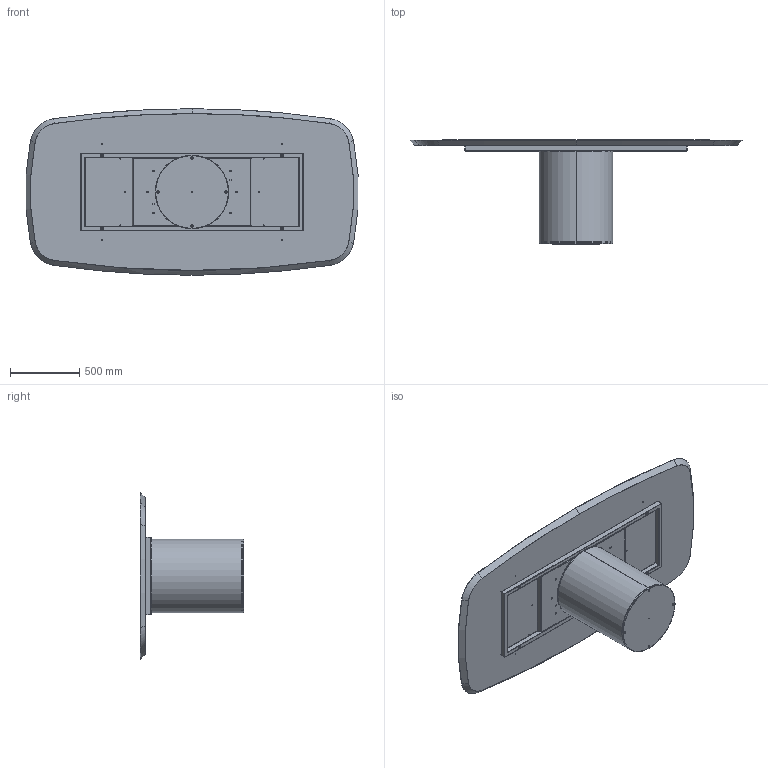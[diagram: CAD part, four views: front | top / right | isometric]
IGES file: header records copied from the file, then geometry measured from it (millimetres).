
Start section: SolidWorks IGES file using analytic representation for surfaces
Global section: file name: Y:\eforma\TECNICO\SOLIDWORKS\E-FORMA\1-TAVOLI\CILINDRO\02 parts\CI43W.IGS; native system: SolidWorks 2022; preprocessor: SolidWorks 2022; author: eforma.tech; date: 240808.092705; units: millimetre
Bounding box: 2391.9 x 748 x 1200 mm (x, y, z)
Volume: 105627130 mm3; surface area: 10535965 mm2
Topology: 20 solids, 20 shells, 763 faces, 1800 edges, 1034 vertices
Faces by surface type: revolution 471, plane 292
